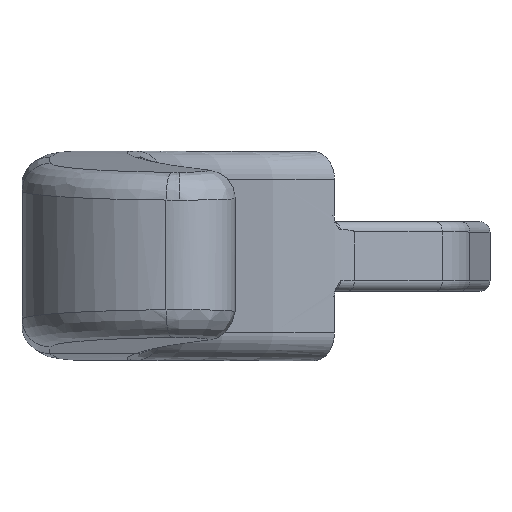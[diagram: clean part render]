
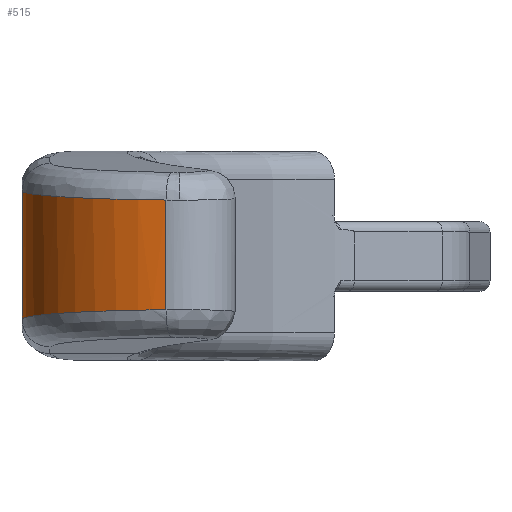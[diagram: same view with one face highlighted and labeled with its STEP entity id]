
A CAD part, top view. The second image highlights one B-rep face of the part: STEP entity #515.
In plain terms, the highlighted cylindrical face has radius 12 mm (diameter 24 mm), a partial arc.
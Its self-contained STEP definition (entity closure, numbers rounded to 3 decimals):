
#422 = VERTEX_POINT ( 'NONE', #6475 ) ;
#424 = EDGE_CURVE ( 'NONE', #425, #422, #6474, .T. ) ;
#425 = VERTEX_POINT ( 'NONE', #6470 ) ;
#499 = ORIENTED_EDGE ( 'NONE', *, *, #500, .T. ) ;
#500 = EDGE_CURVE ( 'NONE', #526, #501, #6589, .T. ) ;
#501 = VERTEX_POINT ( 'NONE', #6588 ) ;
#502 = ORIENTED_EDGE ( 'NONE', *, *, #503, .T. ) ;
#503 = EDGE_CURVE ( 'NONE', #501, #425, #6582, .T. ) ;
#515 = ADVANCED_FACE ( 'NONE', ( #6606 ), #6605, .T. ) ;
#516 = EDGE_LOOP ( 'NONE', ( #517, #518, #521, #524, #499, #502 ) ) ;
#517 = ORIENTED_EDGE ( 'NONE', *, *, #424, .T. ) ;
#518 = ORIENTED_EDGE ( 'NONE', *, *, #519, .T. ) ;
#519 = EDGE_CURVE ( 'NONE', #422, #520, #6646, .T. ) ;
#520 = VERTEX_POINT ( 'NONE', #6647 ) ;
#521 = ORIENTED_EDGE ( 'NONE', *, *, #522, .T. ) ;
#522 = EDGE_CURVE ( 'NONE', #520, #523, #6641, .T. ) ;
#523 = VERTEX_POINT ( 'NONE', #6640 ) ;
#524 = ORIENTED_EDGE ( 'NONE', *, *, #525, .F. ) ;
#525 = EDGE_CURVE ( 'NONE', #526, #523, #6635, .T. ) ;
#526 = VERTEX_POINT ( 'NONE', #6631 ) ;
#6470 = CARTESIAN_POINT ( 'NONE',  ( -46.51, 7.078, 13.544 ) ) ;
#6471 = DIRECTION ( 'NONE',  ( 0., -1., 0. ) ) ;
#6472 = VECTOR ( 'NONE', #6471, 1000. ) ;
#6473 = CARTESIAN_POINT ( 'NONE',  ( -46.51, 10., 13.544 ) ) ;
#6474 = LINE ( 'NONE', #6473, #6472 ) ;
#6475 = CARTESIAN_POINT ( 'NONE',  ( -46.51, -2.076, 13.544 ) ) ;
#6577 = CARTESIAN_POINT ( 'NONE',  ( -46.51, 7.078, 13.544 ) ) ;
#6578 = CARTESIAN_POINT ( 'NONE',  ( -46.222, 6.736, 19.56 ) ) ;
#6579 = CARTESIAN_POINT ( 'NONE',  ( -42.164, 6.483, 24.01 ) ) ;
#6580 = CARTESIAN_POINT ( 'NONE',  ( -36.201, 6.435, 24.851 ) ) ;
#6582 =( BOUNDED_CURVE ( )  B_SPLINE_CURVE ( 3, ( #6580, #6579, #6578, #6577 ),
 .UNSPECIFIED., .F., .T. ) 
 B_SPLINE_CURVE_WITH_KNOTS ( ( 4, 4 ),
 ( 0.14, 1.523 ),
 .UNSPECIFIED. ) 
 CURVE ( )  GEOMETRIC_REPRESENTATION_ITEM ( )  RATIONAL_B_SPLINE_CURVE ( ( 1., 0.847, 0.847, 1. ) ) 
 REPRESENTATION_ITEM ( '' )  );
#6584 = CARTESIAN_POINT ( 'NONE',  ( -36.201, 6.435, 24.851 ) ) ;
#6585 = CARTESIAN_POINT ( 'NONE',  ( -36.201, 6.434, 24.851 ) ) ;
#6586 = CARTESIAN_POINT ( 'NONE',  ( -36.201, 6.433, 24.851 ) ) ;
#6587 = CARTESIAN_POINT ( 'NONE',  ( -36.201, 6.432, 24.851 ) ) ;
#6588 = CARTESIAN_POINT ( 'NONE',  ( -36.201, 6.435, 24.851 ) ) ;
#6589 = B_SPLINE_CURVE_WITH_KNOTS ( 'NONE', 3,
 ( #6587, #6586, #6585, #6584 ),
 .UNSPECIFIED., .F., .F.,
 ( 4, 4 ),
 ( 0., 0. ),
 .UNSPECIFIED. ) ;
#6601 = DIRECTION ( 'NONE',  ( 0., 0., -1. ) ) ;
#6602 = DIRECTION ( 'NONE',  ( 0., -1., 0. ) ) ;
#6603 = CARTESIAN_POINT ( 'NONE',  ( -34.524, 10., 12.969 ) ) ;
#6604 = AXIS2_PLACEMENT_3D ( 'NONE', #6603, #6602, #6601 ) ;
#6605 = CYLINDRICAL_SURFACE ( 'NONE', #6604, 12. ) ;
#6606 = FACE_OUTER_BOUND ( 'NONE', #516, .T. ) ;
#6631 = CARTESIAN_POINT ( 'NONE',  ( -36.201, 6.432, 24.851 ) ) ;
#6632 = DIRECTION ( 'NONE',  ( 0., -1., 0. ) ) ;
#6633 = VECTOR ( 'NONE', #6632, 1000. ) ;
#6634 = CARTESIAN_POINT ( 'NONE',  ( -36.201, 10., 24.851 ) ) ;
#6635 = LINE ( 'NONE', #6634, #6633 ) ;
#6636 = CARTESIAN_POINT ( 'NONE',  ( -36.201, -1.429, 24.851 ) ) ;
#6637 = CARTESIAN_POINT ( 'NONE',  ( -36.201, -1.43, 24.851 ) ) ;
#6638 = CARTESIAN_POINT ( 'NONE',  ( -36.201, -1.431, 24.851 ) ) ;
#6639 = CARTESIAN_POINT ( 'NONE',  ( -36.201, -1.431, 24.851 ) ) ;
#6640 = CARTESIAN_POINT ( 'NONE',  ( -36.201, -1.429, 24.851 ) ) ;
#6641 = B_SPLINE_CURVE_WITH_KNOTS ( 'NONE', 3,
 ( #6639, #6638, #6637, #6636 ),
 .UNSPECIFIED., .F., .F.,
 ( 4, 4 ),
 ( 0., 0. ),
 .UNSPECIFIED. ) ;
#6642 = CARTESIAN_POINT ( 'NONE',  ( -36.201, -1.431, 24.851 ) ) ;
#6643 = CARTESIAN_POINT ( 'NONE',  ( -42.164, -1.479, 24.01 ) ) ;
#6644 = CARTESIAN_POINT ( 'NONE',  ( -46.222, -1.733, 19.56 ) ) ;
#6645 = CARTESIAN_POINT ( 'NONE',  ( -46.51, -2.076, 13.544 ) ) ;
#6646 =( BOUNDED_CURVE ( )  B_SPLINE_CURVE ( 3, ( #6645, #6644, #6643, #6642 ),
 .UNSPECIFIED., .F., .T. ) 
 B_SPLINE_CURVE_WITH_KNOTS ( ( 4, 4 ),
 ( 1.619, 3.001 ),
 .UNSPECIFIED. ) 
 CURVE ( )  GEOMETRIC_REPRESENTATION_ITEM ( )  RATIONAL_B_SPLINE_CURVE ( ( 1., 0.847, 0.847, 1. ) ) 
 REPRESENTATION_ITEM ( '' )  );
#6647 = CARTESIAN_POINT ( 'NONE',  ( -36.201, -1.431, 24.851 ) ) ;
